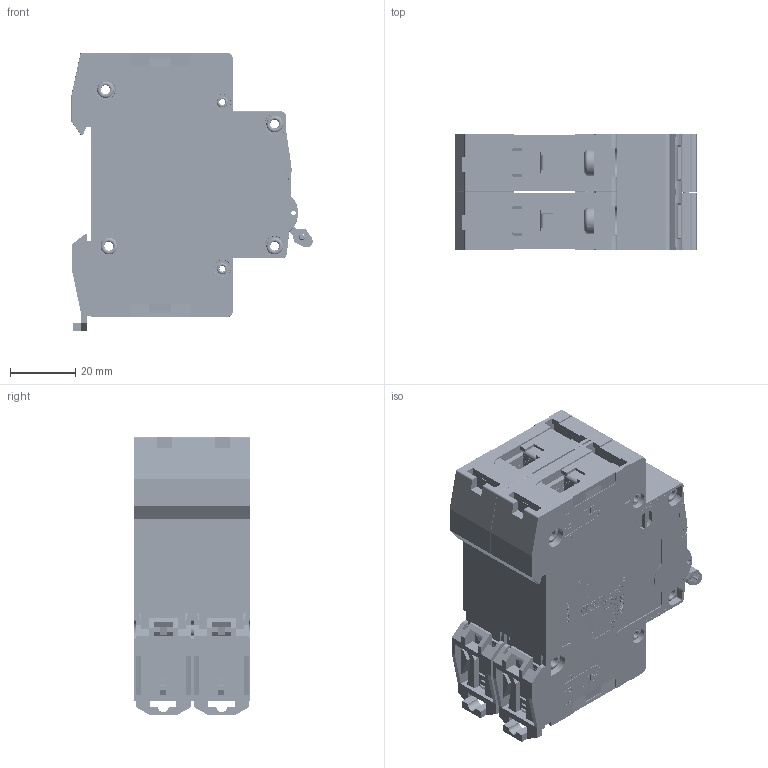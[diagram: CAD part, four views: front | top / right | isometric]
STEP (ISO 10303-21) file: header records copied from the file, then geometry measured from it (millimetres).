
FILE_DESCRIPTION (( 'STEP AP214' ), '1' );
FILE_NAME ('TDZ-2B-40.STEP', '2026-04-30T12:52:44', ( '' ), ( '' ), 'SwSTEP 2.0', 'SolidWorks 2025', '' );
FILE_SCHEMA (( 'AUTOMOTIVE_DESIGN' ));
Length unit declared in the file: millimetre
Products named in the file (1): TDZ-2B-40
Bounding box: 73.85 x 35.6 x 85.3 mm (x, y, z)
Volume: 60519.7 mm3; surface area: 96020.3 mm2
Topology: 34 solids, 34 shells, 8051 faces, 22856 edges, 15239 vertices
Faces by surface type: plane 5039, cylinder 1872, bspline 820, torus 226, cone 94
Entity records: 407406 total; most frequent: CARTESIAN_POINT 117871, ORIENTED_EDGE 45664, DIRECTION 38099, EDGE_CURVE 22832, VECTOR 15851, LINE 15851, VERTEX_POINT 15239, AXIS2_PLACEMENT_3D 11124
